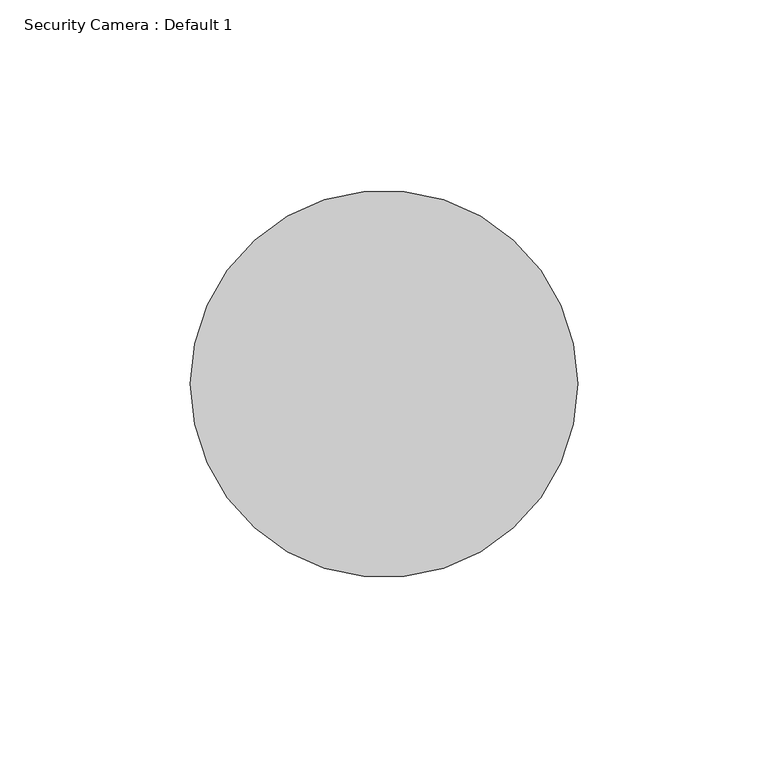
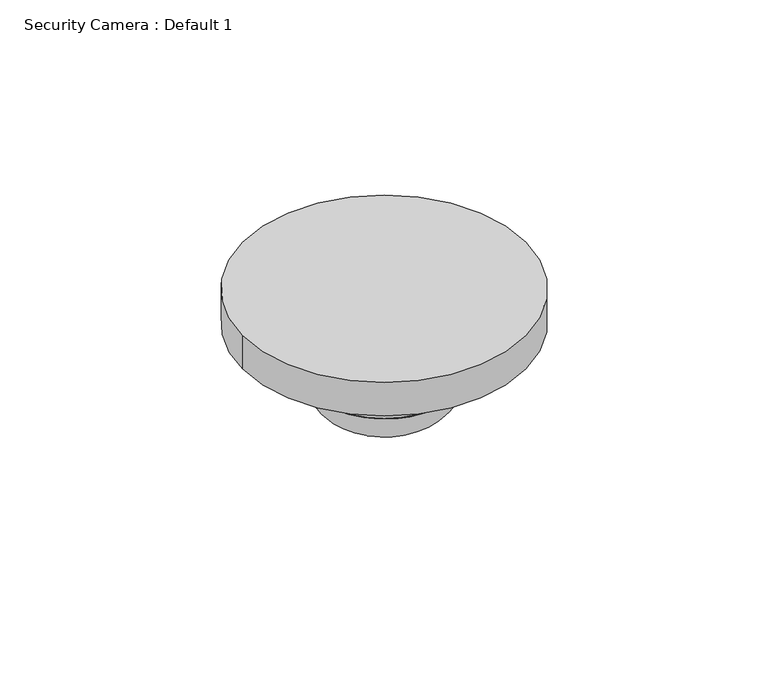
"""IFC4 building model written with IfcOpenShell, lengths in millimetres: proxy geometry, Security Camera : Default 1."""

from ifc_helpers import new_model, si_unit, point, frame, frame_2d, origin, place, context, project, spatial, polyline, circle_curve, ellipse_curve, trimmed, segment, composite_curve, outline, extrude, source, transform, mapped, element, save
from ifc_brep_helpers import plane_surface, revolved_surface, advanced_brep


def security_camera_default_1_4da77557(model_context):
    return source(origin(), model_context, "Body", "SolidModel", [
        advanced_brep(
        [(259.1201394, 457.2, 2394.134095), (248.8798606, 457.2, 2394.134095), (248.8798606, 457.2, 2406.65), (259.1201394, 457.2, 2406.65), (279.4, 457.2, 2406.65), (228.6, 457.2, 2406.65)],
        [
            (0, 1, circle_curve(frame((254.0, 457.2, 2394.134095), z_axis=(0.0, 0.0, -1.0), x_axis=(-1.0, 0.0, 0.0)), 5.1201394)),
            (1, 2),
            (2, 3, circle_curve(frame((254.0, 457.2, 2406.65), z_axis=(0.0, 0.0, 1.0), x_axis=(-1.0, 0.0, 0.0)), 5.1201394)),
            (3, 0),
            (4, 5, circle_curve(frame((254.0, 457.2, 2406.65), z_axis=(0.0, 0.0, -1.0), x_axis=(-1.0, 0.0, 0.0)), 25.4)),
            (5, 1, circle_curve(frame((243.0742914, 457.2, 2407.4151304), z_axis=(0.0, -1.0, 0.0), x_axis=(1.0, 0.0, 0.0)), 14.4945002)),
            (0, 4, circle_curve(frame((264.9257086, 457.2, 2407.4151304), z_axis=(0.0, -1.0, 0.0), x_axis=(-1.0, 0.0, 0.0)), 14.4945002)),
            (1, 0, circle_curve(frame((254.0, 457.2, 2394.134095), z_axis=(0.0, 0.0, -1.0), x_axis=(1.0, 0.0, 0.0)), 5.1201394)),
            (3, 2, circle_curve(frame((254.0, 457.2, 2406.65), z_axis=(0.0, 0.0, 1.0), x_axis=(1.0, 0.0, 0.0)), 5.1201394)),
            (5, 4, circle_curve(frame((254.0, 457.2, 2406.65), z_axis=(0.0, 0.0, -1.0), x_axis=(1.0, 0.0, 0.0)), 25.4)),
        ],
        [
            revolved_surface(polyline([(248.8798606, 457.2, 2406.65), (248.8798606, 457.2, 2394.134095)]), (254.0, 457.2, 0.0), (0.0, 0.0, 1.0)),
            revolved_surface(trimmed(ellipse_curve(frame((243.0742914, 457.2, 2407.4151304), z_axis=(0.0, 1.0, 0.0), x_axis=(1.0, 0.0, 0.0)), 14.4945002, 14.4945002), [point((248.8798606, 457.2, 2394.134095))], [point((228.6, 457.2, 2406.65))], True, "CARTESIAN"), (254.0, 457.2, 0.0), (0.0, 0.0, 1.0)),
            revolved_surface(polyline([(259.1201394, 457.2, 2406.65), (259.1201394, 457.2, 2394.134095)]), (254.0, 457.2, 0.0), (0.0, 0.0, 1.0)),
            revolved_surface(trimmed(ellipse_curve(frame((264.9257086, 457.2, 2407.4151304), z_axis=(0.0, -1.0, 0.0), x_axis=(-1.0, 0.0, 0.0)), 14.4945002, 14.4945002), [point((259.1201394, 457.2, 2394.134095))], [point((279.4, 457.2, 2406.65))], True, "CARTESIAN"), (254.0, 457.2, 0.0), (0.0, 0.0, 1.0)),
            plane_surface(frame((254.0, 457.2, 2406.65), z_axis=(0.0, 0.0, 1.0), x_axis=(1.0, 0.0, 0.0))),
        ],
        [
            (0, [[1, 2, 3, 4]]),
            (1, [[5, 6, -1, 7]]),
            (2, [[8, -4, 9, -2]]),
            (3, [[10, -7, -8, -6]]),
            (4, [[-10, -5], [-9, -3]]),
        ],
    ),
        extrude(outline(composite_curve([segment(trimmed(circle_curve(frame_2d((254.0, 457.2)), 25.4), [point((228.6, 457.2))], [point((279.4, 457.2))], False, "CARTESIAN"), True, "CONTINUOUS"), segment(trimmed(circle_curve(frame_2d((254.0, 457.2)), 25.4), [point((279.4, 457.2))], [point((228.6, 457.2))], False, "CARTESIAN"), True, "CONTINUOUS")], self_intersect=False)), frame((0.0, 0.0, 2406.65), z_axis=(0.0, 0.0, 1.0), x_axis=(1.0, 0.0, 0.0)), (0.0, 0.0, 1.0), 19.05),
        extrude(outline(composite_curve([segment(trimmed(circle_curve(frame_2d((254.0, 457.2)), 50.8), [point((203.2, 457.2))], [point((304.8, 457.2))], False, "CARTESIAN"), True, "CONTINUOUS"), segment(trimmed(circle_curve(frame_2d((254.0, 457.2)), 50.8), [point((304.8, 457.2))], [point((203.2, 457.2))], False, "CARTESIAN"), True, "CONTINUOUS")], self_intersect=False)), frame((0.0, 0.0, 2425.7), z_axis=(0.0, 0.0, 1.0), x_axis=(1.0, 0.0, 0.0)), (0.0, 0.0, 1.0), 12.7),
    ])


if __name__ == "__main__":
    model = new_model("IFC4")
    model_context = context("Model", 3, world=origin())
    ifc_project = project(units=[si_unit("LENGTHUNIT", "METRE", prefix="MILLI")], contexts=[model_context])
    site = spatial("IfcSite", under=ifc_project)
    building = spatial("IfcBuilding", under=site)
    placement = place(None, origin())
    security_camera_default_1_shape = security_camera_default_1_4da77557(model_context)
    element("IfcBuildingElementProxy", 1, Name="Security Camera : Default 1", ObjectType="Security Camera : Default 1", at=placement, inside=building, context=model_context, shape_type="MappedRepresentation", body=[
        mapped(security_camera_default_1_shape, transform((0.0, 0.0, 0.0), x_axis=(1.0, 0.0, 0.0), y_axis=(0.0, 1.0, 0.0), z_axis=(0.0, 0.0, 1.0))),
    ])
    save(model, "model.ifc")
